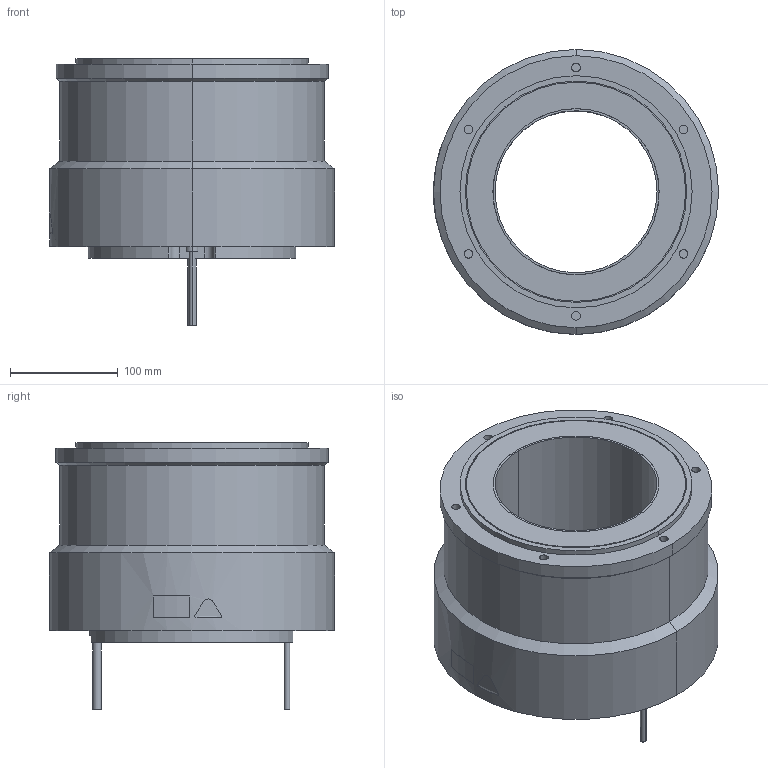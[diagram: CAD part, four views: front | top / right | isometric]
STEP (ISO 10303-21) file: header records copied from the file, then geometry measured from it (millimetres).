
FILE_DESCRIPTION (( 'STEP AP203' ), '1' );
FILE_NAME ('sgm7d_70i_c5_.STEP', '2016-02-22T09:46:00', ( '' ), ( '' ), 'SwSTEP 2.0', 'SolidWorks 2010', '' );
FILE_SCHEMA (( 'CONFIG_CONTROL_DESIGN' ));
Length unit declared in the file: millimetre
Products named in the file (1): sgm7d_70i_c5_
Bounding box: 264.08 x 264 x 247 mm (x, y, z)
Volume: 5586449.3 mm3; surface area: 323362.4 mm2
Topology: 1 solids, 1 shells, 171 faces, 400 edges, 263 vertices
Faces by surface type: cylinder 103, plane 59, bspline 5, cone 4
Entity records: 5246 total; most frequent: CARTESIAN_POINT 1074, DIRECTION 933, ORIENTED_EDGE 800, EDGE_CURVE 400, AXIS2_PLACEMENT_3D 382, VERTEX_POINT 263, CIRCLE 215, EDGE_LOOP 205
